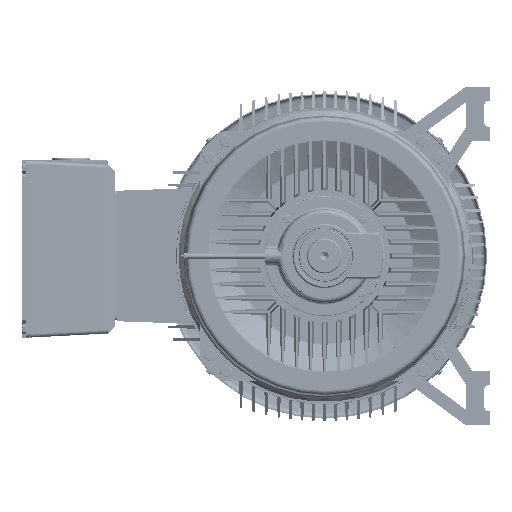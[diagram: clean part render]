
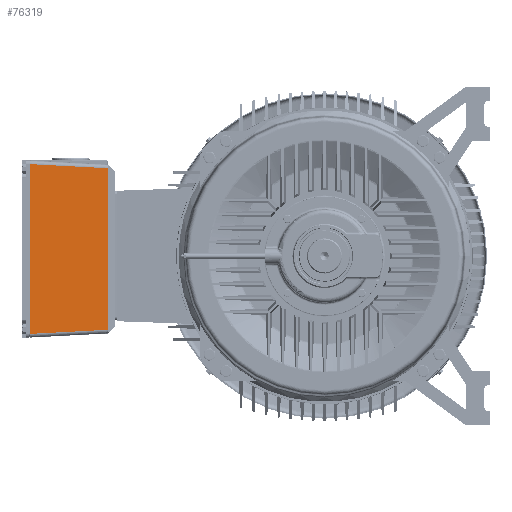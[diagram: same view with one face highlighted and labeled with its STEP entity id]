
A CAD part, left-side view. The second image highlights one B-rep face of the part: STEP entity #76319.
In plain terms, the highlighted planar face has unit normal (-0.999, -0.052, 0) as drawn and (0, -0.052, 0.999) by its records, which use the part's own axes.
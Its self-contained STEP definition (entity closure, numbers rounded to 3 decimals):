
#752 = DIRECTION ( 'NONE',  ( 1., 0., 0. ) ) ;
#754 = CARTESIAN_POINT ( 'NONE',  ( 190.001, 16.317, 156.317 ) ) ;
#761 = DIRECTION ( 'NONE',  ( 0., -0.999, -0.052 ) ) ;
#763 = DIRECTION ( 'NONE',  ( 0., -0.052, 0.999 ) ) ;
#764 = CARTESIAN_POINT ( 'NONE',  ( -190., 182., 165. ) ) ;
#766 = AXIS2_PLACEMENT_3D ( 'NONE', #764, #763, #761 ) ;
#768 = PLANE ( 'NONE',  #766 ) ;
#771 = LINE ( 'NONE', #754, #960 ) ;
#778 = FACE_OUTER_BOUND ( 'NONE', #76324, .T. ) ;
#908 = DIRECTION ( 'NONE',  ( 0.052, -0.997, -0.052 ) ) ;
#910 = VECTOR ( 'NONE', #908, 1000. ) ;
#912 = CARTESIAN_POINT ( 'NONE',  ( -182.033, 182.416, 165.022 ) ) ;
#913 = LINE ( 'NONE', #912, #910 ) ;
#921 = CARTESIAN_POINT ( 'NONE',  ( -182.011, 182., 165. ) ) ;
#925 = DIRECTION ( 'NONE',  ( 1., 0., 0. ) ) ;
#927 = VECTOR ( 'NONE', #925, 1000. ) ;
#928 = CARTESIAN_POINT ( 'NONE',  ( -190., 182., 165. ) ) ;
#930 = LINE ( 'NONE', #928, #927 ) ;
#936 = CARTESIAN_POINT ( 'NONE',  ( 182.011, 182., 165. ) ) ;
#940 = DIRECTION ( 'NONE',  ( 0.052, 0.997, 0.052 ) ) ;
#942 = VECTOR ( 'NONE', #940, 1000. ) ;
#945 = CARTESIAN_POINT ( 'NONE',  ( 182.033, 182.416, 165.022 ) ) ;
#947 = LINE ( 'NONE', #945, #942 ) ;
#954 = CARTESIAN_POINT ( 'NONE',  ( 173.328, 16.317, 156.317 ) ) ;
#956 = CARTESIAN_POINT ( 'NONE',  ( -173.328, 16.317, 156.317 ) ) ;
#960 = VECTOR ( 'NONE', #752, 1000. ) ;
#76319 = ADVANCED_FACE ( 'NONE', ( #778 ), #768, .T. ) ;
#76324 = EDGE_LOOP ( 'NONE', ( #76327, #76335, #76341, #76345 ) ) ;
#76327 = ORIENTED_EDGE ( 'NONE', *, *, #76330, .T. ) ;
#76330 = EDGE_CURVE ( 'NONE', #76331, #76332, #771, .T. ) ;
#76331 = VERTEX_POINT ( 'NONE', #956 ) ;
#76332 = VERTEX_POINT ( 'NONE', #954 ) ;
#76335 = ORIENTED_EDGE ( 'NONE', *, *, #76338, .T. ) ;
#76338 = EDGE_CURVE ( 'NONE', #76332, #76340, #947, .T. ) ;
#76340 = VERTEX_POINT ( 'NONE', #936 ) ;
#76341 = ORIENTED_EDGE ( 'NONE', *, *, #76342, .F. ) ;
#76342 = EDGE_CURVE ( 'NONE', #76343, #76340, #930, .T. ) ;
#76343 = VERTEX_POINT ( 'NONE', #921 ) ;
#76345 = ORIENTED_EDGE ( 'NONE', *, *, #76347, .T. ) ;
#76347 = EDGE_CURVE ( 'NONE', #76343, #76331, #913, .T. ) ;
